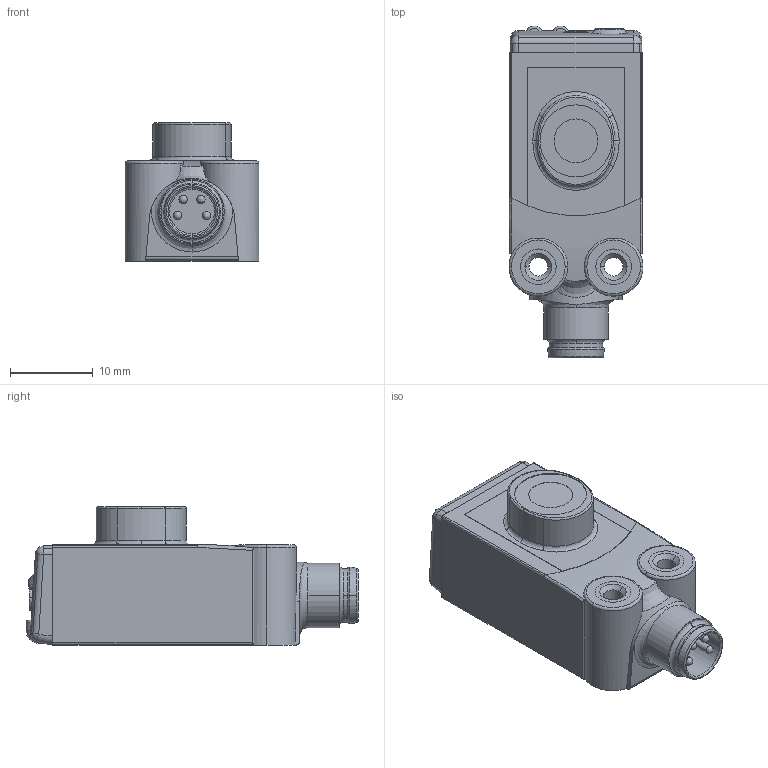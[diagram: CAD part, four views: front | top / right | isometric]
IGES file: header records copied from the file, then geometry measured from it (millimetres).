
Global section: file name: No Iges File Name specified; native system: AutoDesk Inventor R10; preprocessor: AutoDesk Inventor Iges Exporter R10; author: No Author specified; organization: No Organization specified; date: 20070410.154216; units: millimetre
Bounding box: 16.18 x 40.1 x 16.7 mm (x, y, z)
Volume: 6501.7 mm3; surface area: 2944.4 mm2
Topology: 1 solids, 1 shells, 215 faces, 545 edges, 346 vertices
Faces by surface type: cylinder 66, bspline 48, plane 48, torus 22, revolution 19, sphere 10, cone 2
